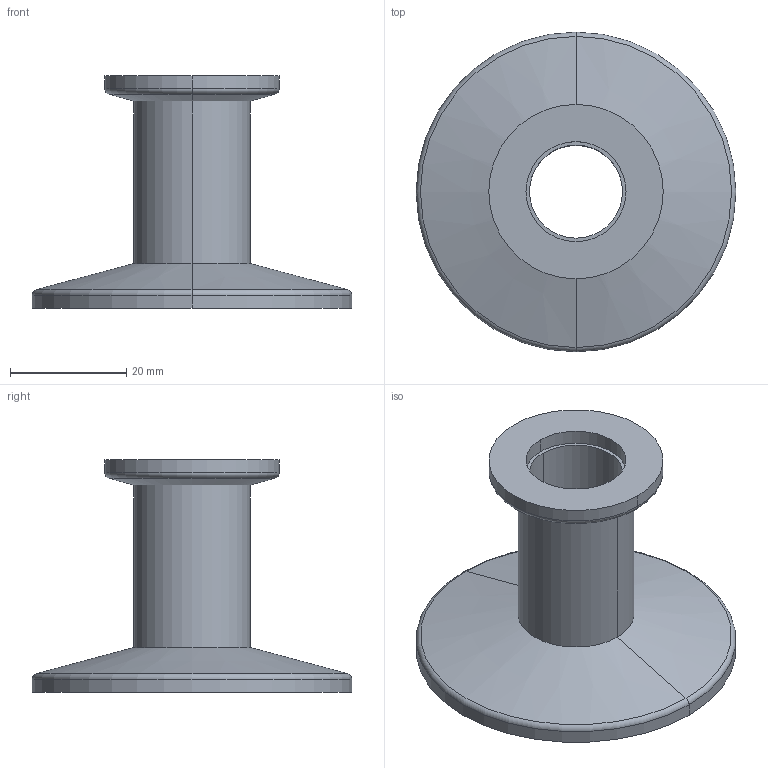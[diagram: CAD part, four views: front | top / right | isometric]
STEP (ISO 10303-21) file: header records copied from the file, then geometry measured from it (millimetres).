
FILE_DESCRIPTION (( 'STEP AP214' ), '1' );
FILE_NAME ('W3RS40-16.STEP', '2019-12-04T07:59:14', ( '' ), ( '' ), 'SwSTEP 2.0', 'SolidWorks 2018', '' );
FILE_SCHEMA (( 'AUTOMOTIVE_DESIGN' ));
Length unit declared in the file: millimetre
Products named in the file (1): W3RS40-16
Bounding box: 55 x 55 x 40 mm (x, y, z)
Volume: 13275.9 mm3; surface area: 9937.1 mm2
Topology: 1 solids, 1 shells, 24 faces, 48 edges, 28 vertices
Faces by surface type: cylinder 12, torus 4, cone 4, plane 4
Entity records: 666 total; most frequent: DIRECTION 130, CARTESIAN_POINT 101, ORIENTED_EDGE 96, AXIS2_PLACEMENT_3D 57, EDGE_CURVE 48, CIRCLE 32, EDGE_LOOP 28, VERTEX_POINT 28
